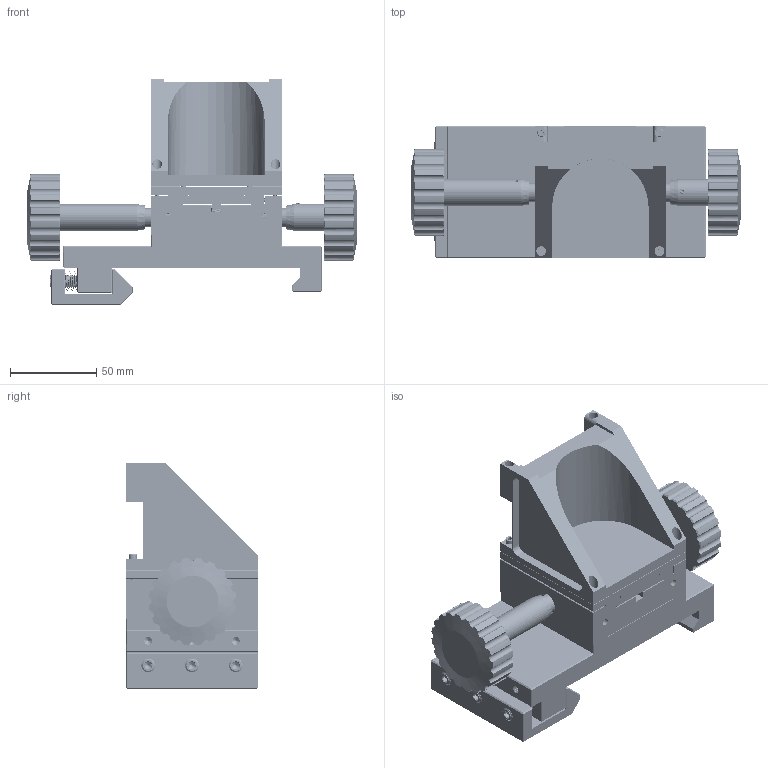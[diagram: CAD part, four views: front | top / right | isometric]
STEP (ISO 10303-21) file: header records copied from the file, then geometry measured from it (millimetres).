
FILE_DESCRIPTION((''),'2;1');
FILE_NAME('OFH95-LM1_ASM','2024-03-05T17:41:22',('R&D'),(''),'CREO PARAMETRIC BY PTC INC, 2021063','CREO PARAMETRIC BY PTC INC, 2021063','');
FILE_SCHEMA(('CONFIG_CONTROL_DESIGN'));
Products named in the file (32): OFH95-LM1-A11; OFH95-LM1-A13; M1_5X5_HS; OFH95-LM1-A2; WASTER_5_3X11X1; OFH95-LM1-A3; OFH95-LM1-A4; AXLE_3X6; OFH95-LM1-A12; OFH95-LM1-A9; OFH95-LM1-A6; M3X4_HS; OFH95-LM1-A5; OFH95-LM1-A1; WASTER_9X12X7; OFH95-LM1-A22; M3X6_HS2; OFH95-LM1-A8; M2X6_HM; OFH95-LM1-A10; M3X6_PM; WASTER_5_3X11_0_5_T; M3X6_HM; HELICAL_LEFT_GEAR; HELICAL_LEFT_GEAR-2; ISO14579-M3X12-8_8; OFH95-LM1-A20; OFH95-LM1-A21; M3X12_HM; ISO14579-M3X10-8_8; OFH95-LM1-A19; OFH95-LM1_ASM
Assembly tree (58 placements, depth 2):
  OFH95-LM1_ASM
    OFH95-LM1-A11
    OFH95-LM1-A13
    M1_5X5_HS
    OFH95-LM1-A2
    WASTER_5_3X11X1  x2
    OFH95-LM1-A3
    OFH95-LM1-A4
    AXLE_3X6  x6
    OFH95-LM1-A12
    OFH95-LM1-A9
    OFH95-LM1-A6
    M3X4_HS  x4
    OFH95-LM1-A5
    OFH95-LM1-A1
    WASTER_9X12X7  x3
    OFH95-LM1-A22  x3
    M3X6_HS2  x4
    OFH95-LM1-A8
    M2X6_HM  x3
    OFH95-LM1-A10
    M3X6_PM
    WASTER_5_3X11_0_5_T  x2
    M3X6_HM  x4
    HELICAL_LEFT_GEAR
    HELICAL_LEFT_GEAR-2
    ISO14579-M3X12-8_8  x4
    OFH95-LM1-A20
    OFH95-LM1-A21
    M3X12_HM  x2
    ISO14579-M3X10-8_8  x2
    OFH95-LM1-A19
Bounding box: 191.05 x 76.2 x 131.32 mm (x, y, z)
Volume: 577948.6 mm3; surface area: 178985 mm2
Topology: 53 solids, 80 shells, 5212 faces, 14176 edges, 9071 vertices
Faces by surface type: cylinder 3029, plane 762, cone 703, bspline 678, torus 32, extrusion 8
Entity records: 274655 total; most frequent: CARTESIAN_POINT 191985, ORIENTED_EDGE 19810, DIRECTION 12541, EDGE_CURVE 9998, VERTEX_POINT 6533, B_SPLINE_CURVE_WITH_KNOTS 4940, AXIS2_PLACEMENT_3D 4423, EDGE_LOOP 3871
